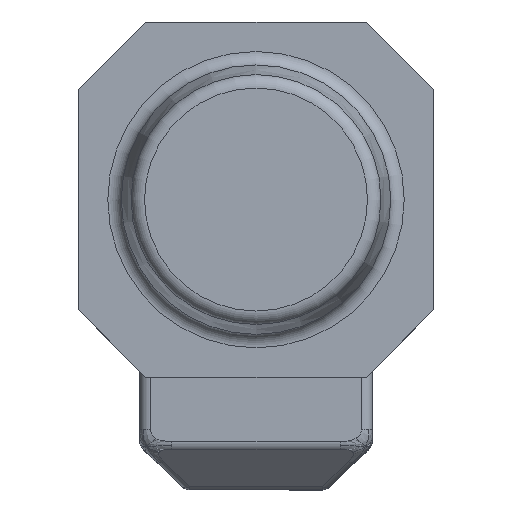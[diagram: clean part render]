
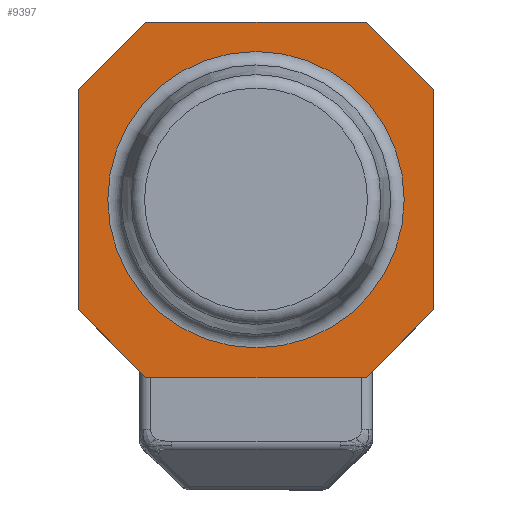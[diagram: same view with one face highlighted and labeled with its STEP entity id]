
A CAD part, top view. The second image highlights one B-rep face of the part: STEP entity #9397.
In plain terms, the highlighted planar face has unit normal (0, 0, 1) as drawn and (1, 0, 0) by its records, which use the part's own axes.
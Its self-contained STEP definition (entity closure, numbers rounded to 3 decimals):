
#9291=CARTESIAN_POINT('',(209.0,0.,54.212));
#9292=VERTEX_POINT('',#9291);
#9293=CARTESIAN_POINT('',(209.0,0.0,0.0));
#9294=DIRECTION('',(1.0,0.0,0.0));
#9295=DIRECTION('',(0.0,0.0,-1.0));
#9296=AXIS2_PLACEMENT_3D('',#9293,#9294,#9295);
#9297=CIRCLE('',#9296,54.212);
#9298=EDGE_CURVE('',#9292,#9292,#9297,.T.);
#9323=CARTESIAN_POINT('',(209.0,28.6,0.0));
#9324=DIRECTION('',(1.0,0.0,0.0));
#9325=DIRECTION('',(0.0,0.0,-1.0));
#9326=AXIS2_PLACEMENT_3D('',#9323,#9324,#9325);
#9327=PLANE('',#9326);
#9328=CARTESIAN_POINT('',(209.0,-65.0,40.251));
#9329=VERTEX_POINT('',#9328);
#9330=CARTESIAN_POINT('',(209.0,-40.251,65.0));
#9331=VERTEX_POINT('',#9330);
#9332=CARTESIAN_POINT('',(209.0,-65.0,40.251));
#9333=DIRECTION('',(0.0,0.707,0.707));
#9334=VECTOR('',#9333,35.);
#9335=LINE('',#9332,#9334);
#9336=EDGE_CURVE('',#9329,#9331,#9335,.T.);
#9337=ORIENTED_EDGE('',*,*,#9336,.F.);
#9338=CARTESIAN_POINT('',(209.0,-65.0,-40.251));
#9339=VERTEX_POINT('',#9338);
#9340=CARTESIAN_POINT('',(209.0,-65.0,-40.251));
#9341=DIRECTION('',(0.0,0.0,1.0));
#9342=VECTOR('',#9341,80.503);
#9343=LINE('',#9340,#9342);
#9344=EDGE_CURVE('',#9339,#9329,#9343,.T.);
#9345=ORIENTED_EDGE('',*,*,#9344,.F.);
#9346=CARTESIAN_POINT('',(209.0,-40.251,-65.0));
#9347=VERTEX_POINT('',#9346);
#9348=CARTESIAN_POINT('',(209.0,-40.251,-65.0));
#9349=DIRECTION('',(0.0,-0.707,0.707));
#9350=VECTOR('',#9349,35.);
#9351=LINE('',#9348,#9350);
#9352=EDGE_CURVE('',#9347,#9339,#9351,.T.);
#9353=ORIENTED_EDGE('',*,*,#9352,.F.);
#9354=CARTESIAN_POINT('',(209.0,40.251,-65.0));
#9355=VERTEX_POINT('',#9354);
#9356=CARTESIAN_POINT('',(209.0,40.251,-65.0));
#9357=DIRECTION('',(0.0,-1.0,0.0));
#9358=VECTOR('',#9357,80.503);
#9359=LINE('',#9356,#9358);
#9360=EDGE_CURVE('',#9355,#9347,#9359,.T.);
#9361=ORIENTED_EDGE('',*,*,#9360,.F.);
#9362=CARTESIAN_POINT('',(209.0,65.0,-40.251));
#9363=VERTEX_POINT('',#9362);
#9364=CARTESIAN_POINT('',(209.0,65.0,-40.251));
#9365=DIRECTION('',(0.0,-0.707,-0.707));
#9366=VECTOR('',#9365,35.0);
#9367=LINE('',#9364,#9366);
#9368=EDGE_CURVE('',#9363,#9355,#9367,.T.);
#9369=ORIENTED_EDGE('',*,*,#9368,.F.);
#9370=CARTESIAN_POINT('',(209.0,65.0,40.251));
#9371=VERTEX_POINT('',#9370);
#9372=CARTESIAN_POINT('',(209.0,65.0,40.251));
#9373=DIRECTION('',(0.0,0.0,-1.0));
#9374=VECTOR('',#9373,80.503);
#9375=LINE('',#9372,#9374);
#9376=EDGE_CURVE('',#9371,#9363,#9375,.T.);
#9377=ORIENTED_EDGE('',*,*,#9376,.F.);
#9378=CARTESIAN_POINT('',(209.0,40.251,65.0));
#9379=VERTEX_POINT('',#9378);
#9380=CARTESIAN_POINT('',(209.0,40.251,65.0));
#9381=DIRECTION('',(0.0,0.707,-0.707));
#9382=VECTOR('',#9381,35.0);
#9383=LINE('',#9380,#9382);
#9384=EDGE_CURVE('',#9379,#9371,#9383,.T.);
#9385=ORIENTED_EDGE('',*,*,#9384,.F.);
#9386=CARTESIAN_POINT('',(209.0,-40.251,65.0));
#9387=DIRECTION('',(0.0,1.0,0.0));
#9388=VECTOR('',#9387,80.503);
#9389=LINE('',#9386,#9388);
#9390=EDGE_CURVE('',#9331,#9379,#9389,.T.);
#9391=ORIENTED_EDGE('',*,*,#9390,.F.);
#9392=EDGE_LOOP('',(#9337,#9345,#9353,#9361,#9369,#9377,#9385,#9391));
#9393=FACE_OUTER_BOUND('',#9392,.T.);
#9394=ORIENTED_EDGE('',*,*,#9298,.F.);
#9395=EDGE_LOOP('',(#9394));
#9396=FACE_BOUND('',#9395,.T.);
#9397=ADVANCED_FACE('',(#9393,#9396),#9327,.T.);
